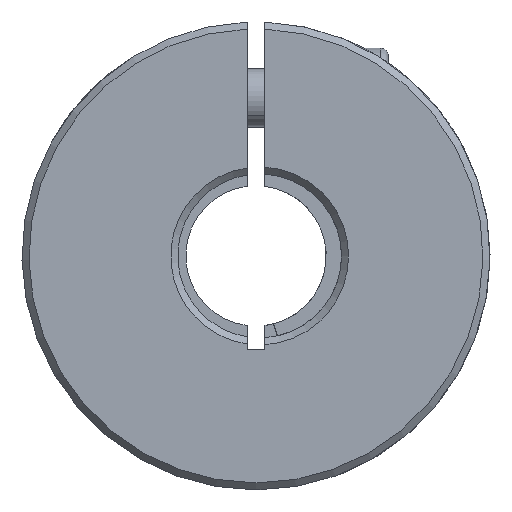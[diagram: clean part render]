
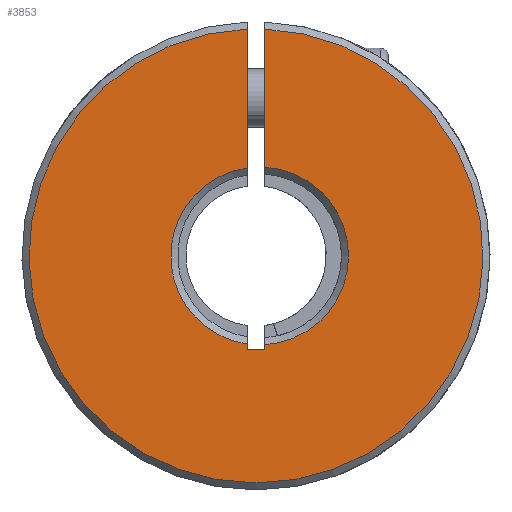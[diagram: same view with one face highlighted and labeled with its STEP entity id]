
A CAD part, front view. The second image highlights one B-rep face of the part: STEP entity #3853.
In plain terms, the highlighted planar face has unit normal (0, -1, 0).
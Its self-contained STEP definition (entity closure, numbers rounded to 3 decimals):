
#44 = CARTESIAN_POINT ( 'NONE',  ( -0.75, -30., -8. ) ) ;
#60 = CARTESIAN_POINT ( 'NONE',  ( -0.75, -30., -7.525 ) ) ;
#72 = DIRECTION ( 'NONE',  ( 0., 0., -1. ) ) ;
#117 = ORIENTED_EDGE ( 'NONE', *, *, #5410, .T. ) ;
#296 = VERTEX_POINT ( 'NONE', #4924 ) ;
#439 = EDGE_CURVE ( 'NONE', #3615, #4836, #653, .T. ) ;
#490 = EDGE_CURVE ( 'NONE', #2642, #1118, #2815, .T. ) ;
#614 = DIRECTION ( 'NONE',  ( 0., 1., 0. ) ) ;
#653 = LINE ( 'NONE', #4405, #1452 ) ;
#799 = DIRECTION ( 'NONE',  ( 0., 0., 1. ) ) ;
#857 = AXIS2_PLACEMENT_3D ( 'NONE', #2753, #2729, #799 ) ;
#1052 = LINE ( 'NONE', #5312, #5611 ) ;
#1079 = FACE_OUTER_BOUND ( 'NONE', #3934, .T. ) ;
#1118 = VERTEX_POINT ( 'NONE', #1774 ) ;
#1136 = DIRECTION ( 'NONE',  ( 0., 1., 0. ) ) ;
#1327 = VECTOR ( 'NONE', #72, 1000. ) ;
#1452 = VECTOR ( 'NONE', #2055, 1000. ) ;
#1619 = VECTOR ( 'NONE', #5364, 1000. ) ;
#1706 = CARTESIAN_POINT ( 'NONE',  ( 0.75, -30., 7.587 ) ) ;
#1774 = CARTESIAN_POINT ( 'NONE',  ( 0.75, -30., 19.385 ) ) ;
#1845 = EDGE_CURVE ( 'NONE', #1118, #2602, #2235, .T. ) ;
#1982 = ORIENTED_EDGE ( 'NONE', *, *, #2248, .T. ) ;
#2024 = DIRECTION ( 'NONE',  ( 0., 0., 1. ) ) ;
#2046 = DIRECTION ( 'NONE',  ( 0., 0., 1. ) ) ;
#2055 = DIRECTION ( 'NONE',  ( -1., 0., 0. ) ) ;
#2144 = LINE ( 'NONE', #4847, #1619 ) ;
#2235 = LINE ( 'NONE', #3129, #2381 ) ;
#2248 = EDGE_CURVE ( 'NONE', #2900, #2642, #2144, .T. ) ;
#2379 = LINE ( 'NONE', #4260, #1327 ) ;
#2381 = VECTOR ( 'NONE', #3154, 1000. ) ;
#2402 = VERTEX_POINT ( 'NONE', #60 ) ;
#2543 = DIRECTION ( 'NONE',  ( 0., 0., 1. ) ) ;
#2581 = ORIENTED_EDGE ( 'NONE', *, *, #3850, .T. ) ;
#2602 = VERTEX_POINT ( 'NONE', #1706 ) ;
#2642 = VERTEX_POINT ( 'NONE', #4507 ) ;
#2729 = DIRECTION ( 'NONE',  ( 0., -1., 0. ) ) ;
#2753 = CARTESIAN_POINT ( 'NONE',  ( 0., -30., 0. ) ) ;
#2808 = CARTESIAN_POINT ( 'NONE',  ( -0.75, -30., 7.525 ) ) ;
#2815 = CIRCLE ( 'NONE', #857, 19.4 ) ;
#2844 = ORIENTED_EDGE ( 'NONE', *, *, #490, .T. ) ;
#2900 = VERTEX_POINT ( 'NONE', #2808 ) ;
#2947 = DIRECTION ( 'NONE',  ( 0., 1., 0. ) ) ;
#2971 = ORIENTED_EDGE ( 'NONE', *, *, #1845, .T. ) ;
#3129 = CARTESIAN_POINT ( 'NONE',  ( 0.75, -30., -8. ) ) ;
#3154 = DIRECTION ( 'NONE',  ( 0., 0., -1. ) ) ;
#3167 = CIRCLE ( 'NONE', #5999, 7.6 ) ;
#3279 = CIRCLE ( 'NONE', #4177, 7.6 ) ;
#3406 = CARTESIAN_POINT ( 'NONE',  ( 0.314, -30., 0. ) ) ;
#3571 = ORIENTED_EDGE ( 'NONE', *, *, #4285, .T. ) ;
#3615 = VERTEX_POINT ( 'NONE', #5610 ) ;
#3850 = EDGE_CURVE ( 'NONE', #2602, #296, #3167, .T. ) ;
#3853 = ADVANCED_FACE ( 'NONE', ( #1079 ), #4829, .F. ) ;
#3870 = EDGE_CURVE ( 'NONE', #4836, #2402, #1052, .T. ) ;
#3923 = CARTESIAN_POINT ( 'NONE',  ( 0.314, -30., 0. ) ) ;
#3934 = EDGE_LOOP ( 'NONE', ( #2971, #2581, #3571, #5027, #5928, #117, #1982, #2844 ) ) ;
#4177 = AXIS2_PLACEMENT_3D ( 'NONE', #3923, #1136, #2046 ) ;
#4260 = CARTESIAN_POINT ( 'NONE',  ( 0.75, -30., -8. ) ) ;
#4285 = EDGE_CURVE ( 'NONE', #296, #3615, #2379, .T. ) ;
#4405 = CARTESIAN_POINT ( 'NONE',  ( -0.75, -30., -8. ) ) ;
#4507 = CARTESIAN_POINT ( 'NONE',  ( -0.75, -30., 19.385 ) ) ;
#4829 = PLANE ( 'NONE',  #5702 ) ;
#4836 = VERTEX_POINT ( 'NONE', #44 ) ;
#4847 = CARTESIAN_POINT ( 'NONE',  ( -0.75, -30., -8. ) ) ;
#4924 = CARTESIAN_POINT ( 'NONE',  ( 0.75, -30., -7.587 ) ) ;
#5027 = ORIENTED_EDGE ( 'NONE', *, *, #439, .T. ) ;
#5256 = CARTESIAN_POINT ( 'NONE',  ( 0., -30., 0. ) ) ;
#5312 = CARTESIAN_POINT ( 'NONE',  ( -0.75, -30., -8. ) ) ;
#5364 = DIRECTION ( 'NONE',  ( 0., 0., 1. ) ) ;
#5410 = EDGE_CURVE ( 'NONE', #2402, #2900, #3279, .T. ) ;
#5610 = CARTESIAN_POINT ( 'NONE',  ( 0.75, -30., -8. ) ) ;
#5611 = VECTOR ( 'NONE', #2024, 1000. ) ;
#5702 = AXIS2_PLACEMENT_3D ( 'NONE', #5256, #614, #2543 ) ;
#5732 = DIRECTION ( 'NONE',  ( 0., 0., 1. ) ) ;
#5928 = ORIENTED_EDGE ( 'NONE', *, *, #3870, .T. ) ;
#5999 = AXIS2_PLACEMENT_3D ( 'NONE', #3406, #2947, #5732 ) ;
